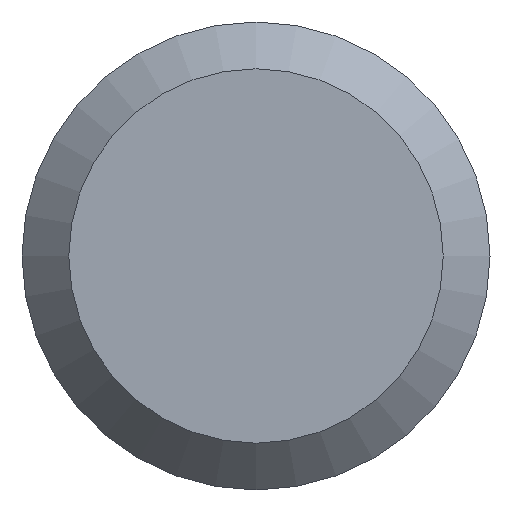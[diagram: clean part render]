
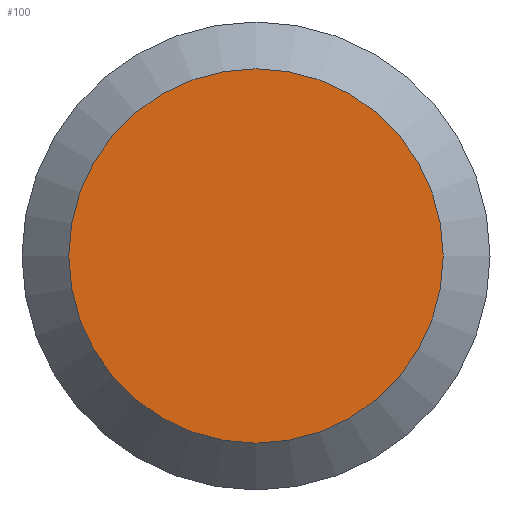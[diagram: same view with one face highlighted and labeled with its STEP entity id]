
A CAD part, left-side view. The second image highlights one B-rep face of the part: STEP entity #100.
In plain terms, the highlighted planar face has unit normal (-1, 0, 0).
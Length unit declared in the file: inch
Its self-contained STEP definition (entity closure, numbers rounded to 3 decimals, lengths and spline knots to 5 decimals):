
#9 = FACE_OUTER_BOUND ( 'NONE', #35, .T. ) ;
#17 = DIRECTION ( 'NONE',  ( 1., 0., 0. ) ) ;
#25 = ORIENTED_EDGE ( 'NONE', *, *, #240, .T. ) ;
#35 = EDGE_LOOP ( 'NONE', ( #25 ) ) ;
#41 = PLANE ( 'NONE',  #220 ) ;
#86 = CIRCLE ( 'NONE', #180, 0.1125 ) ;
#100 = ADVANCED_FACE ( 'NONE', ( #9 ), #41, .F. ) ;
#154 = CARTESIAN_POINT ( 'NONE',  ( 0., 0., -0.1125 ) ) ;
#160 = DIRECTION ( 'NONE',  ( 0., 0., -1. ) ) ;
#175 = VERTEX_POINT ( 'NONE', #154 ) ;
#180 = AXIS2_PLACEMENT_3D ( 'NONE', #234, #190, #160 ) ;
#190 = DIRECTION ( 'NONE',  ( -1., 0., 0. ) ) ;
#220 = AXIS2_PLACEMENT_3D ( 'NONE', #238, #17, #246 ) ;
#234 = CARTESIAN_POINT ( 'NONE',  ( 0., 0., 0. ) ) ;
#238 = CARTESIAN_POINT ( 'NONE',  ( 0., 0.14063, 0. ) ) ;
#240 = EDGE_CURVE ( 'NONE', #175, #175, #86, .T. ) ;
#246 = DIRECTION ( 'NONE',  ( 0., 0., -1. ) ) ;
